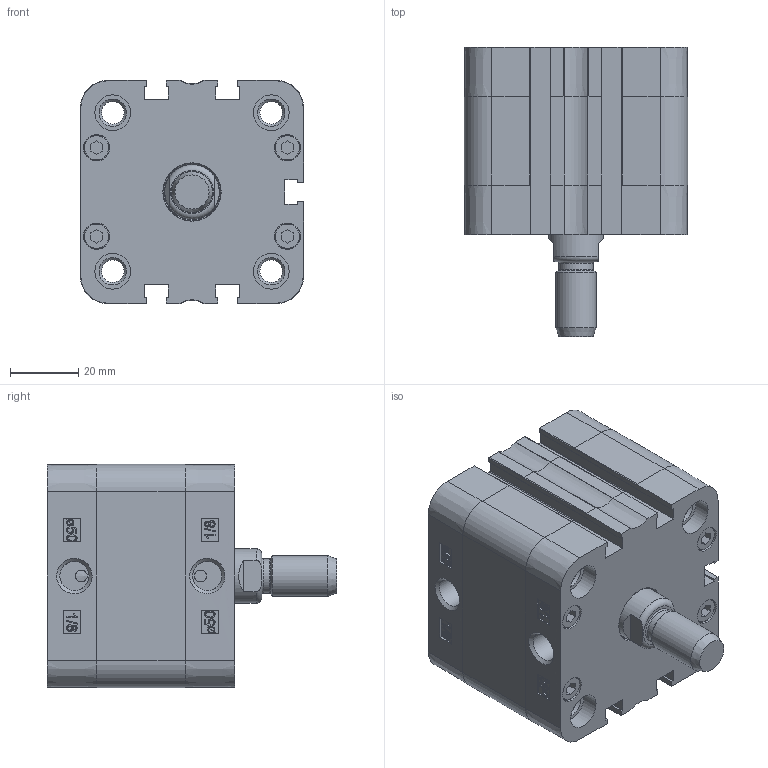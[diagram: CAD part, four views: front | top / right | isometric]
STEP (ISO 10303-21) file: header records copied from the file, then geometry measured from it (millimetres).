
FILE_DESCRIPTION((''),'2;1');
FILE_NAME('T:\Archivio Inventor\- CATALOGHI 2012\SERIE P - NUOVA\PDM\PDM050\PDM050.---.GS.M\PDM050.010.GS.M.stp','2013-02-01T10:49:40',('Administrator'),(''),'Autodesk Inventor 2012','Autodesk Inventor 2012','');
FILE_SCHEMA(('CONFIG_CONTROL_DESIGN'));
Length unit declared in the file: millimetre
Products named in the file (1): PDM050.010.GS.M
Bounding box: 65.5 x 85 x 65.5 mm (x, y, z)
Volume: 144147.5 mm3; surface area: 55118.5 mm2
Topology: 2 solids, 6 shells, 780 faces, 1860 edges, 1167 vertices
Faces by surface type: plane 335, bspline 196, cylinder 131, torus 56, cone 46, sphere 16
Full cylindrical faces by diameter (mm): 3.5 x2, 5.2 x4, 6.647 x8, 7.5 x8, 7.7 x8, 8.047 x4, 8.566 x2, 10 x1, 10.5 x8, 12 x2, 16 x1, 16.5 x1, 50 x1, 52.4 x1, 52.6 x1
Entity records: 25589 total; most frequent: CARTESIAN_POINT 8474, ORIENTED_EDGE 3488, DIRECTION 2866, EDGE_CURVE 1744, VERTEX_POINT 1148, AXIS2_PLACEMENT_3D 978, EDGE_LOOP 962, VECTOR 910
